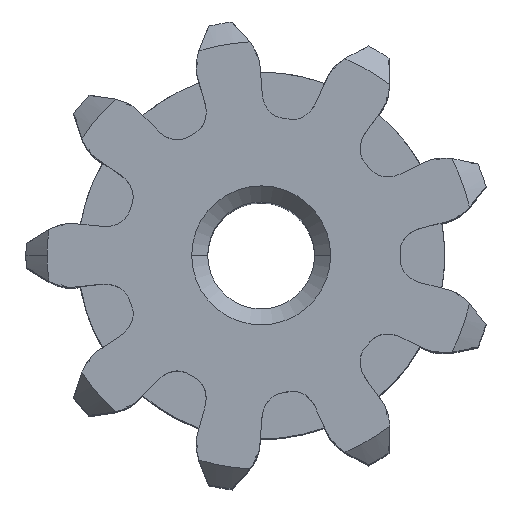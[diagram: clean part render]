
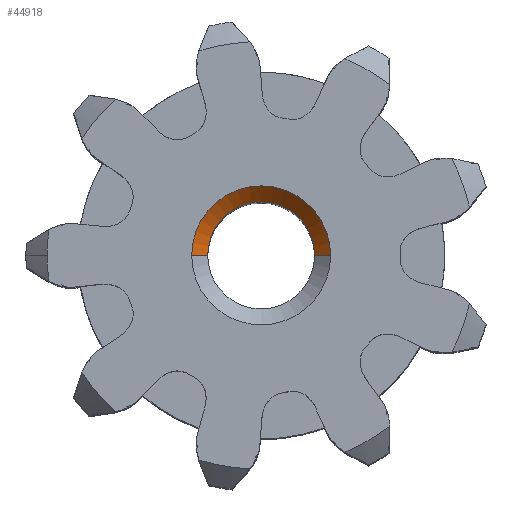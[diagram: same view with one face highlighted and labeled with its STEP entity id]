
A CAD part, top view. The second image highlights one B-rep face of the part: STEP entity #44918.
In plain terms, the highlighted conical face has half-angle 45 degrees and reference radius 1.3 mm.
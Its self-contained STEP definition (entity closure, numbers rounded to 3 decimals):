
#280 = DIRECTION ( 'NONE',  ( 0., 0., 1. ) ) ;
#1289 = CARTESIAN_POINT ( 'NONE',  ( 1.3, 0., 6.395 ) ) ;
#4341 = DIRECTION ( 'NONE',  ( -0.707, 0., 0.707 ) ) ;
#6321 = VECTOR ( 'NONE', #4341, 1000. ) ;
#6331 = FACE_OUTER_BOUND ( 'NONE', #25241, .T. ) ;
#8832 = VERTEX_POINT ( 'NONE', #60170 ) ;
#9185 = CARTESIAN_POINT ( 'NONE',  ( -1., 0., 6.095 ) ) ;
#13204 = ORIENTED_EDGE ( 'NONE', *, *, #49325, .T. ) ;
#13705 = VERTEX_POINT ( 'NONE', #15714 ) ;
#15714 = CARTESIAN_POINT ( 'NONE',  ( -1.3, 0., 6.395 ) ) ;
#16199 = CARTESIAN_POINT ( 'NONE',  ( 0., 0., 6.395 ) ) ;
#16375 = ORIENTED_EDGE ( 'NONE', *, *, #47790, .F. ) ;
#16433 = VERTEX_POINT ( 'NONE', #53905 ) ;
#22520 = AXIS2_PLACEMENT_3D ( 'NONE', #16199, #25324, #49715 ) ;
#22600 = LINE ( 'NONE', #1289, #47039 ) ;
#23428 = CIRCLE ( 'NONE', #53776, 1. ) ;
#24851 = CONICAL_SURFACE ( 'NONE', #22520, 1.3, 0.785 ) ;
#25241 = EDGE_LOOP ( 'NONE', ( #34903, #42058, #13204, #16375 ) ) ;
#25324 = DIRECTION ( 'NONE',  ( 0., 0., 1. ) ) ;
#26082 = DIRECTION ( 'NONE',  ( -1., 0., 0. ) ) ;
#26520 = EDGE_CURVE ( 'NONE', #44748, #13705, #40436, .T. ) ;
#28461 = CARTESIAN_POINT ( 'NONE',  ( 0., 0., 6.095 ) ) ;
#28878 = AXIS2_PLACEMENT_3D ( 'NONE', #35786, #49642, #26082 ) ;
#33136 = CARTESIAN_POINT ( 'NONE',  ( -1.3, 0., 6.395 ) ) ;
#34016 = DIRECTION ( 'NONE',  ( 0.707, 0., 0.707 ) ) ;
#34903 = ORIENTED_EDGE ( 'NONE', *, *, #26520, .F. ) ;
#35786 = CARTESIAN_POINT ( 'NONE',  ( 0., 0., 6.395 ) ) ;
#37557 = DIRECTION ( 'NONE',  ( -1., 0., 0. ) ) ;
#39600 = CIRCLE ( 'NONE', #28878, 1.3 ) ;
#40100 = EDGE_CURVE ( 'NONE', #8832, #44748, #23428, .T. ) ;
#40436 = LINE ( 'NONE', #33136, #6321 ) ;
#42058 = ORIENTED_EDGE ( 'NONE', *, *, #40100, .F. ) ;
#44748 = VERTEX_POINT ( 'NONE', #9185 ) ;
#44918 = ADVANCED_FACE ( 'NONE', ( #6331 ), #24851, .F. ) ;
#47039 = VECTOR ( 'NONE', #34016, 1000. ) ;
#47790 = EDGE_CURVE ( 'NONE', #13705, #16433, #39600, .T. ) ;
#49325 = EDGE_CURVE ( 'NONE', #8832, #16433, #22600, .T. ) ;
#49642 = DIRECTION ( 'NONE',  ( 0., 0., -1. ) ) ;
#49715 = DIRECTION ( 'NONE',  ( 1., 0., 0. ) ) ;
#53776 = AXIS2_PLACEMENT_3D ( 'NONE', #28461, #280, #37557 ) ;
#53905 = CARTESIAN_POINT ( 'NONE',  ( 1.3, 0., 6.395 ) ) ;
#60170 = CARTESIAN_POINT ( 'NONE',  ( 1., 0., 6.095 ) ) ;
